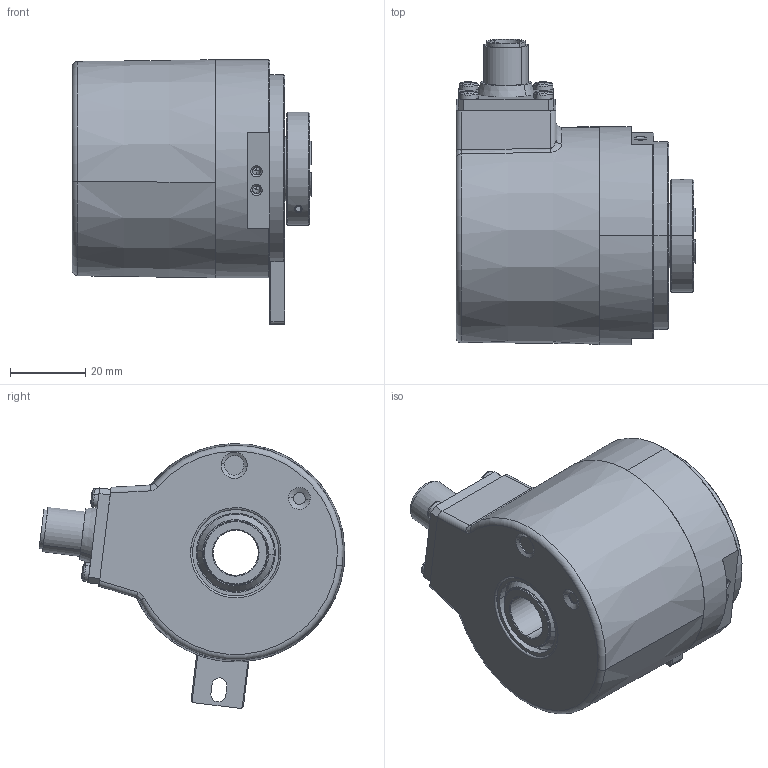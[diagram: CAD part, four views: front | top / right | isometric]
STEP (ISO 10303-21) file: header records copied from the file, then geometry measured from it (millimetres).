
FILE_DESCRIPTION (( 'STEP AP203' ), '1' );
FILE_NAME ('8.F5883.24X6.XXXX.STEP', '2013-12-18T09:49:44', ( 'HeirlerN' ), ( 'Microsoft' ), 'SwSTEP 2.0', 'SolidWorks 2013', '' );
FILE_SCHEMA (( 'CONFIG_CONTROL_DESIGN' ));
Length unit declared in the file: millimetre
Products named in the file (1): 8.F5883.24X6.XXXX
Bounding box: 63.7 x 81.25 x 70.33 mm (x, y, z)
Volume: 78406.7 mm3; surface area: 51612.7 mm2
Topology: 16 solids, 17 shells, 936 faces, 2357 edges, 1436 vertices
Faces by surface type: cylinder 295, plane 269, cone 198, torus 85, sphere 65, bspline 24
Entity records: 29939 total; most frequent: CARTESIAN_POINT 7949, DIRECTION 4822, ORIENTED_EDGE 4428, EDGE_CURVE 2214, AXIS2_PLACEMENT_3D 1973, VERTEX_POINT 1384, EDGE_LOOP 1076, CIRCLE 1060
